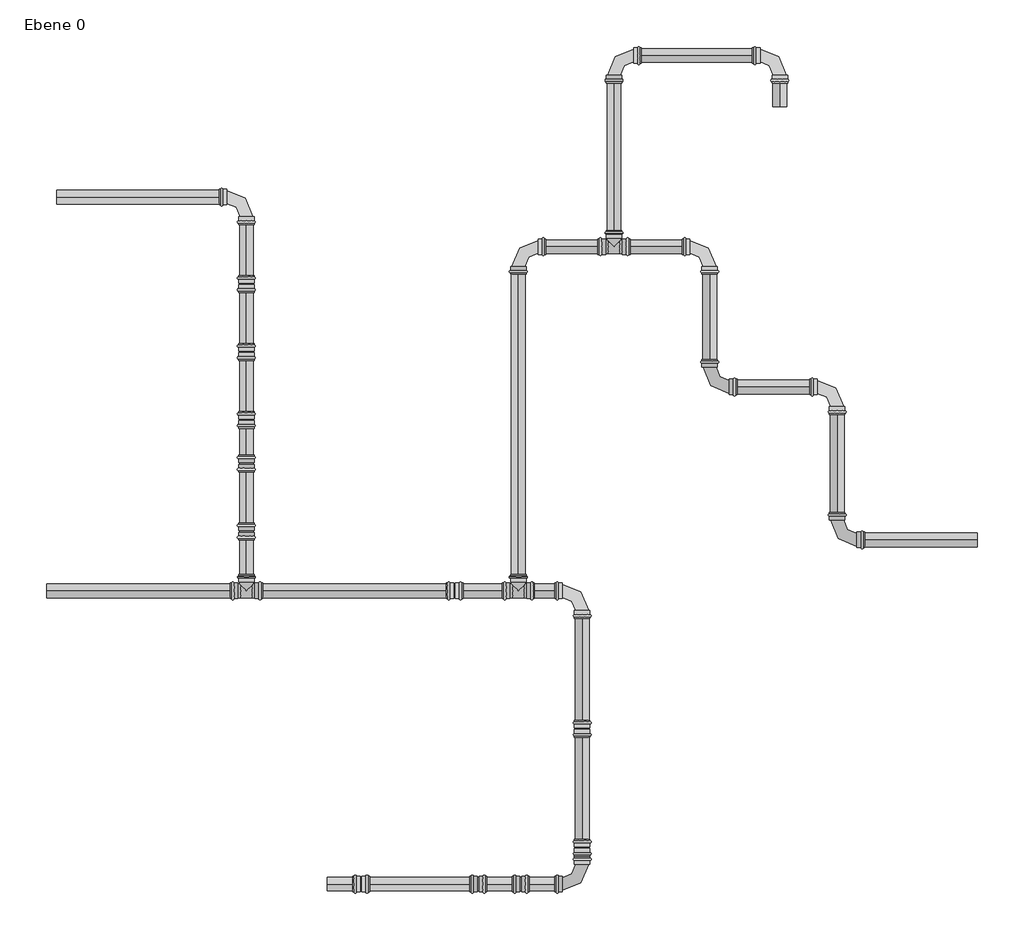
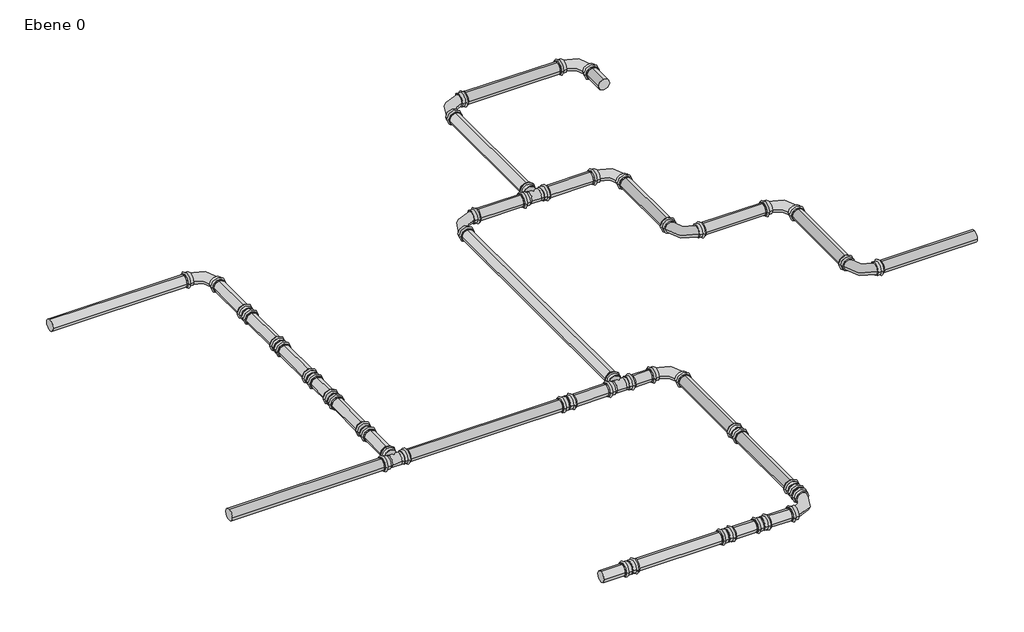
# One storey: 28 pipe segments, 24 pipe fittings.
"""IFC4 building model written with IfcOpenShell, lengths in millimetres."""

from ifc_helpers import new_model, si_unit, point, frame, frame_2d, origin, place, context, project, spatial, circle_curve, trimmed, segment, composite_curve, outline, extrude, transform, mapped, element, save
from components import bogen_edelstahl_press_standard_c5dac5ad, standard_b74197ae, verbindung_edelstahl_press_standard_6cba3e9c

model = new_model("IFC4")

# Units and contexts
model_context = context("Model", 3, world=origin())
ifc_project = project(units=[si_unit("LENGTHUNIT", "METRE", prefix="MILLI")], contexts=[model_context])

# Site, building, storey
site = spatial("IfcSite", under=ifc_project)
building = spatial("IfcBuilding", under=site)
storey = spatial("IfcBuildingStorey", under=building, Name="Ebene 0", Elevation=0.0)

# Pipe fittings
placement = place(None, origin())
bogen_edelstahl_press_standard_shape = bogen_edelstahl_press_standard_c5dac5ad(model_context)
element("IfcPipeFitting", 1, ObjectType="Bogen Edelstahl - Press : Standard", at=placement, inside=storey, context=model_context, shape_type="MappedRepresentation", body=[
    mapped(bogen_edelstahl_press_standard_shape, transform((30326.3442233, 19622.1918243, 150.0), x_axis=(0.0, 1.0, 0.0), y_axis=(-1.0, 0.0, 0.0), z_axis=(0.0, 0.0, 1.0))),
])
element("IfcPipeFitting", 2, ObjectType="Bogen Edelstahl - Press : Standard", at=placement, inside=storey, context=model_context, shape_type="MappedRepresentation", body=[
    mapped(bogen_edelstahl_press_standard_shape, transform((30326.3442233, 17322.1918243, 150.0), x_axis=(1.0, 0.0, 0.0), y_axis=(0.0, 1.0, 0.0), z_axis=(0.0, 0.0, 1.0))),
])
element("IfcPipeFitting", 3, ObjectType="Bogen Edelstahl - Press : Standard", at=placement, inside=storey, context=model_context, shape_type="MappedRepresentation", body=[
    mapped(bogen_edelstahl_press_standard_shape, transform((27693.7328943, 22711.9868563, 150.0), x_axis=(0.0, 1.0, 0.0), y_axis=(-1.0, 0.0, 0.0), z_axis=(0.0, 0.0, 1.0))),
])
element("IfcPipeFitting", 4, ObjectType="Bogen Edelstahl - Press : Standard", at=placement, inside=storey, context=model_context, shape_type="MappedRepresentation", body=[
    mapped(bogen_edelstahl_press_standard_shape, transform((31326.0942713, 22322.1918243, 150.0), x_axis=(0.0, 1.0, 0.0), y_axis=(-1.0, 0.0, 0.0), z_axis=(0.0, 0.0, 1.0))),
])
element("IfcPipeFitting", 5, ObjectType="Bogen Edelstahl - Press : Standard", at=placement, inside=storey, context=model_context, shape_type="MappedRepresentation", body=[
    mapped(bogen_edelstahl_press_standard_shape, transform((31326.0942713, 21222.1918243, 150.0), x_axis=(0.0, -1.0, 0.0), y_axis=(1.0, 0.0, 0.0), z_axis=(0.0, 0.0, 1.0))),
])
element("IfcPipeFitting", 6, ObjectType="Bogen Edelstahl - Press : Standard", at=placement, inside=storey, context=model_context, shape_type="MappedRepresentation", body=[
    mapped(bogen_edelstahl_press_standard_shape, transform((32326.0942713, 21222.1918243, 150.0), x_axis=(0.0, 1.0, 0.0), y_axis=(-1.0, 0.0, 0.0), z_axis=(0.0, 0.0, 1.0))),
])
element("IfcPipeFitting", 7, ObjectType="Bogen Edelstahl - Press : Standard", at=placement, inside=storey, context=model_context, shape_type="MappedRepresentation", body=[
    mapped(bogen_edelstahl_press_standard_shape, transform((32326.0942713, 20022.1918243, 150.0), x_axis=(0.0, -1.0, 0.0), y_axis=(1.0, 0.0, 0.0), z_axis=(0.0, 0.0, 1.0))),
])
element("IfcPipeFitting", 8, ObjectType="Bogen Edelstahl - Press : Standard", at=placement, inside=storey, context=model_context, shape_type="MappedRepresentation", body=[
    mapped(bogen_edelstahl_press_standard_shape, transform((29826.0942713, 22322.1918243, 150.0), x_axis=(-1.0, 0.0, 0.0), y_axis=(0.0, -1.0, 0.0), z_axis=(0.0, 0.0, 1.0))),
])
element("IfcPipeFitting", 9, ObjectType="Bogen Edelstahl - Press : Standard", at=placement, inside=storey, context=model_context, shape_type="MappedRepresentation", body=[
    mapped(bogen_edelstahl_press_standard_shape, transform((30576.0942713, 23822.1918243, 150.0), x_axis=(-1.0, 0.0, 0.0), y_axis=(0.0, -1.0, 0.0), z_axis=(0.0, 0.0, 1.0))),
])
element("IfcPipeFitting", 10, ObjectType="Bogen Edelstahl - Press : Standard", at=placement, inside=storey, context=model_context, shape_type="MappedRepresentation", body=[
    mapped(bogen_edelstahl_press_standard_shape, transform((31876.0942713, 23822.1918243, 150.0), x_axis=(0.0, 1.0, 0.0), y_axis=(-1.0, 0.0, 0.0), z_axis=(0.0, 0.0, 1.0))),
])
standard_shape = standard_b74197ae(model_context)
element("IfcPipeFitting", 11, ObjectType="T-Stück Edelstahl - Press : Standard", at=placement, inside=storey, context=model_context, shape_type="MappedRepresentation", body=[
    mapped(standard_shape, transform((29826.0942713, 19622.1918243, 150.0), x_axis=(-1.0, 0.0, 0.0), y_axis=(0.0, -1.0, 0.0), z_axis=(0.0, 0.0, 1.0))),
])
element("IfcPipeFitting", 12, ObjectType="T-Stück Edelstahl - Press : Standard", at=placement, inside=storey, context=model_context, shape_type="MappedRepresentation", body=[
    mapped(standard_shape, transform((30576.0942713, 22322.1918243, 150.0), x_axis=(-1.0, 0.0, 0.0), y_axis=(0.0, -1.0, 0.0), z_axis=(0.0, 0.0, 1.0))),
])
element("IfcPipeFitting", 13, ObjectType="T-Stück Edelstahl - Press : Standard", at=placement, inside=storey, context=model_context, shape_type="MappedRepresentation", body=[
    mapped(standard_shape, transform((27693.7328943, 19622.1918243, 150.0), x_axis=(-1.0, 0.0, 0.0), y_axis=(0.0, -1.0, 0.0), z_axis=(0.0, 0.0, 1.0))),
])
verbindung_edelstahl_press_standard_shape = verbindung_edelstahl_press_standard_6cba3e9c(model_context)
element("IfcPipeFitting", 14, ObjectType="Verbindung Edelstahl - Press : Standard", at=placement, inside=storey, context=model_context, shape_type="MappedRepresentation", body=[
    mapped(verbindung_edelstahl_press_standard_shape, transform((29325.8443193, 19622.1918243, 150.0), x_axis=(1.0, 0.0, 0.0), y_axis=(0.0, 1.0, 0.0), z_axis=(0.0, 0.0, 1.0))),
])
element("IfcPipeFitting", 15, ObjectType="Verbindung Edelstahl - Press : Standard", at=placement, inside=storey, context=model_context, shape_type="MappedRepresentation", body=[
    mapped(verbindung_edelstahl_press_standard_shape, transform((30326.3442233, 18540.6917987, 150.0), x_axis=(0.0, -1.0, 0.0), y_axis=(1.0, 0.0, 0.0), z_axis=(0.0, 0.0, 1.0))),
])
element("IfcPipeFitting", 16, ObjectType="Verbindung Edelstahl - Press : Standard", at=placement, inside=storey, context=model_context, shape_type="MappedRepresentation", body=[
    mapped(verbindung_edelstahl_press_standard_shape, transform((30326.3442233, 17607.6917731, 150.0), x_axis=(0.0, -1.0, 0.0), y_axis=(1.0, 0.0, 0.0), z_axis=(0.0, 0.0, 1.0))),
])
element("IfcPipeFitting", 17, ObjectType="Verbindung Edelstahl - Press : Standard", at=placement, inside=storey, context=model_context, shape_type="MappedRepresentation", body=[
    mapped(verbindung_edelstahl_press_standard_shape, transform((29844.8442169, 17322.1918243, 150.0), x_axis=(-1.0, 0.0, 0.0), y_axis=(0.0, -1.0, 0.0), z_axis=(0.0, 0.0, 1.0))),
])
element("IfcPipeFitting", 18, ObjectType="Verbindung Edelstahl - Press : Standard", at=placement, inside=storey, context=model_context, shape_type="MappedRepresentation", body=[
    mapped(verbindung_edelstahl_press_standard_shape, transform((29511.8442105, 17322.1918243, 150.0), x_axis=(-1.0, 0.0, 0.0), y_axis=(0.0, -1.0, 0.0), z_axis=(0.0, 0.0, 1.0))),
])
element("IfcPipeFitting", 19, ObjectType="Verbindung Edelstahl - Press : Standard", at=placement, inside=storey, context=model_context, shape_type="MappedRepresentation", body=[
    mapped(verbindung_edelstahl_press_standard_shape, transform((28592.8442297, 17322.1918243, 150.0), x_axis=(1.0, 0.0, 0.0), y_axis=(0.0, 1.0, 0.0), z_axis=(0.0, 0.0, 1.0))),
])
element("IfcPipeFitting", 20, ObjectType="Verbindung Edelstahl - Press : Standard", at=placement, inside=storey, context=model_context, shape_type="MappedRepresentation", body=[
    mapped(verbindung_edelstahl_press_standard_shape, transform((27693.7328943, 20088.6918371, 150.0), x_axis=(0.0, 1.0, 0.0), y_axis=(-1.0, 0.0, 0.0), z_axis=(0.0, 0.0, 1.0))),
])
element("IfcPipeFitting", 21, ObjectType="Verbindung Edelstahl - Press : Standard", at=placement, inside=storey, context=model_context, shape_type="MappedRepresentation", body=[
    mapped(verbindung_edelstahl_press_standard_shape, transform((27693.7328943, 20621.6918499, 150.0), x_axis=(0.0, 1.0, 0.0), y_axis=(-1.0, 0.0, 0.0), z_axis=(0.0, 0.0, 1.0))),
])
element("IfcPipeFitting", 22, ObjectType="Verbindung Edelstahl - Press : Standard", at=placement, inside=storey, context=model_context, shape_type="MappedRepresentation", body=[
    mapped(verbindung_edelstahl_press_standard_shape, transform((27693.7328943, 22030.4868435, 150.0), x_axis=(0.0, -1.0, 0.0), y_axis=(1.0, 0.0, 0.0), z_axis=(0.0, 0.0, 1.0))),
])
element("IfcPipeFitting", 23, ObjectType="Verbindung Edelstahl - Press : Standard", at=placement, inside=storey, context=model_context, shape_type="MappedRepresentation", body=[
    mapped(verbindung_edelstahl_press_standard_shape, transform((27693.7328943, 21497.4868307, 150.0), x_axis=(0.0, -1.0, 0.0), y_axis=(1.0, 0.0, 0.0), z_axis=(0.0, 0.0, 1.0))),
])
element("IfcPipeFitting", 24, ObjectType="Verbindung Edelstahl - Press : Standard", at=placement, inside=storey, context=model_context, shape_type="MappedRepresentation", body=[
    mapped(verbindung_edelstahl_press_standard_shape, transform((27693.7328943, 20964.4868179, 150.0), x_axis=(0.0, -1.0, 0.0), y_axis=(1.0, 0.0, 0.0), z_axis=(0.0, 0.0, 1.0))),
])

# Pipe segments
element("IfcPipeSegment", 25, ObjectType="Edelstahl - Pressfitting", at=placement, inside=storey, context=model_context, shape_type="SweptSolid", body=[
    extrude(outline(composite_curve([segment(trimmed(circle_curve(frame_2d((19622.1918243, 150.0)), 54.0), [point((19568.1918243, 150.0))], [point((19622.1918243, 204.0))], False, "CARTESIAN"), True, "CONTINUOUS"), segment(trimmed(circle_curve(frame_2d((19622.1918243, 150.0)), 54.0), [point((19622.1918243, 204.0))], [point((19676.1918243, 150.0))], False, "CARTESIAN"), True, "CONTINUOUS"), segment(trimmed(circle_curve(frame_2d((19622.1918243, 150.0)), 54.0), [point((19676.1918243, 150.0))], [point((19622.1918243, 96.0))], False, "CARTESIAN"), True, "CONTINUOUS"), segment(trimmed(circle_curve(frame_2d((19622.1918243, 150.0)), 54.0), [point((19622.1918243, 96.0))], [point((19568.1918243, 150.0))], False, "CARTESIAN"), True, "CONTINUOUS")], self_intersect=False)), frame((29952.5942713, 0.0, 0.0), z_axis=(1.0, 0.0, 0.0), x_axis=(0.0, 1.0, 0.0)), (0.0, 0.0, 1.0), 158.749952),
])
element("IfcPipeSegment", 26, ObjectType="Edelstahl - Pressfitting", at=placement, inside=storey, context=model_context, shape_type="SweptSolid", body=[
    extrude(outline(composite_curve([segment(trimmed(circle_curve(frame_2d((0.0, -54.0)), 54.0), [point((0.0, 0.0))], [point((54.0, -54.0))], False, "CARTESIAN"), True, "CONTINUOUS"), segment(trimmed(circle_curve(frame_2d((0.0, -54.0)), 54.0), [point((54.0, -54.0))], [point((0.0, -108.0))], False, "CARTESIAN"), True, "CONTINUOUS"), segment(trimmed(circle_curve(frame_2d((0.0, -54.0)), 54.0), [point((0.0, -108.0))], [point((-54.0, -54.0))], False, "CARTESIAN"), True, "CONTINUOUS"), segment(trimmed(circle_curve(frame_2d((0.0, -54.0)), 54.0), [point((-54.0, -54.0))], [point((0.0, 0.0))], False, "CARTESIAN"), True, "CONTINUOUS")], self_intersect=False)), frame((30272.3442233, 17537.1918243, 150.0), z_axis=(5.4143356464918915e-12, 1.0, 0.0), x_axis=(0.0, 0.0, -1.0)), (0.0, 0.0, 1.0), 3.9999488),
])
element("IfcPipeSegment", 27, ObjectType="Edelstahl - Pressfitting", at=placement, inside=storey, context=model_context, shape_type="SweptSolid", body=[
    extrude(outline(composite_curve([segment(trimmed(circle_curve(frame_2d((17322.1918243, 150.0)), 54.0), [point((17376.1918243, 150.0))], [point((17322.1918243, 96.0))], False, "CARTESIAN"), True, "CONTINUOUS"), segment(trimmed(circle_curve(frame_2d((17322.1918243, 150.0)), 54.0), [point((17322.1918243, 96.0))], [point((17268.1918243, 150.0))], False, "CARTESIAN"), True, "CONTINUOUS"), segment(trimmed(circle_curve(frame_2d((17322.1918243, 150.0)), 54.0), [point((17268.1918243, 150.0))], [point((17322.1918243, 204.0))], False, "CARTESIAN"), True, "CONTINUOUS"), segment(trimmed(circle_curve(frame_2d((17322.1918243, 150.0)), 54.0), [point((17322.1918243, 204.0))], [point((17376.1918243, 150.0))], False, "CARTESIAN"), True, "CONTINUOUS")], self_intersect=False)), frame((28326.3442233, 0.0, 0.0), z_axis=(1.0, 0.0, 0.0), x_axis=(0.0, 1.0, 0.0)), (0.0, 0.0, 1.0), 200.0000064),
])
element("IfcPipeSegment", 28, ObjectType="Edelstahl - Pressfitting", at=placement, inside=storey, context=model_context, shape_type="SweptSolid", body=[
    extrude(outline(composite_curve([segment(trimmed(circle_curve(frame_2d((19622.1918243, 150.0)), 54.0), [point((19568.1918243, 150.0))], [point((19622.1918243, 204.0))], False, "CARTESIAN"), True, "CONTINUOUS"), segment(trimmed(circle_curve(frame_2d((19622.1918243, 150.0)), 54.0), [point((19622.1918243, 204.0))], [point((19676.1918243, 150.0))], False, "CARTESIAN"), True, "CONTINUOUS"), segment(trimmed(circle_curve(frame_2d((19622.1918243, 150.0)), 54.0), [point((19676.1918243, 150.0))], [point((19622.1918243, 96.0))], False, "CARTESIAN"), True, "CONTINUOUS"), segment(trimmed(circle_curve(frame_2d((19622.1918243, 150.0)), 54.0), [point((19622.1918243, 96.0))], [point((19568.1918243, 150.0))], False, "CARTESIAN"), True, "CONTINUOUS")], self_intersect=False)), frame((27820.2328943, 0.0, 0.0), z_axis=(1.0, 0.0, 0.0), x_axis=(0.0, 1.0, 0.0)), (0.0, 0.0, 1.0), 1439.1114251),
])
element("IfcPipeSegment", 29, ObjectType="Edelstahl - Pressfitting", at=placement, inside=storey, context=model_context, shape_type="SweptSolid", body=[
    extrude(outline(composite_curve([segment(trimmed(circle_curve(frame_2d((150.0, 30326.3442233)), 54.0), [point((150.0, 30272.3442233))], [point((96.0, 30326.3442233))], False, "CARTESIAN"), True, "CONTINUOUS"), segment(trimmed(circle_curve(frame_2d((150.0, 30326.3442233)), 54.0), [point((96.0, 30326.3442233))], [point((150.0, 30380.3442233))], False, "CARTESIAN"), True, "CONTINUOUS"), segment(trimmed(circle_curve(frame_2d((150.0, 30326.3442233)), 54.0), [point((150.0, 30380.3442233))], [point((204.0, 30326.3442233))], False, "CARTESIAN"), True, "CONTINUOUS"), segment(trimmed(circle_curve(frame_2d((150.0, 30326.3442233)), 54.0), [point((204.0, 30326.3442233))], [point((150.0, 30272.3442233))], False, "CARTESIAN"), True, "CONTINUOUS")], self_intersect=False)), frame((0.0, 18607.1917987, 0.0), z_axis=(0.0, 1.0, 0.0), x_axis=(0.0, 0.0, 1.0)), (0.0, 0.0, 1.0), 800.0000256),
])
element("IfcPipeSegment", 30, ObjectType="Edelstahl - Pressfitting", at=placement, inside=storey, context=model_context, shape_type="SweptSolid", body=[
    extrude(outline(composite_curve([segment(trimmed(circle_curve(frame_2d((150.0, 30326.3442233)), 54.0), [point((150.0, 30272.3442233))], [point((96.0, 30326.3442233))], False, "CARTESIAN"), True, "CONTINUOUS"), segment(trimmed(circle_curve(frame_2d((150.0, 30326.3442233)), 54.0), [point((96.0, 30326.3442233))], [point((150.0, 30380.3442233))], False, "CARTESIAN"), True, "CONTINUOUS"), segment(trimmed(circle_curve(frame_2d((150.0, 30326.3442233)), 54.0), [point((150.0, 30380.3442233))], [point((204.0, 30326.3442233))], False, "CARTESIAN"), True, "CONTINUOUS"), segment(trimmed(circle_curve(frame_2d((150.0, 30326.3442233)), 54.0), [point((204.0, 30326.3442233))], [point((150.0, 30272.3442233))], False, "CARTESIAN"), True, "CONTINUOUS")], self_intersect=False)), frame((0.0, 17674.1917731, 0.0), z_axis=(0.0, 1.0, 0.0), x_axis=(0.0, 0.0, 1.0)), (0.0, 0.0, 1.0), 800.0000256),
])
element("IfcPipeSegment", 31, ObjectType="Edelstahl - Pressfitting", at=placement, inside=storey, context=model_context, shape_type="SweptSolid", body=[
    extrude(outline(composite_curve([segment(trimmed(circle_curve(frame_2d((17322.1918243, 150.0)), 54.0), [point((17376.1918243, 150.0))], [point((17322.1918243, 96.0))], False, "CARTESIAN"), True, "CONTINUOUS"), segment(trimmed(circle_curve(frame_2d((17322.1918243, 150.0)), 54.0), [point((17322.1918243, 96.0))], [point((17268.1918243, 150.0))], False, "CARTESIAN"), True, "CONTINUOUS"), segment(trimmed(circle_curve(frame_2d((17322.1918243, 150.0)), 54.0), [point((17268.1918243, 150.0))], [point((17322.1918243, 204.0))], False, "CARTESIAN"), True, "CONTINUOUS"), segment(trimmed(circle_curve(frame_2d((17322.1918243, 150.0)), 54.0), [point((17322.1918243, 204.0))], [point((17376.1918243, 150.0))], False, "CARTESIAN"), True, "CONTINUOUS")], self_intersect=False)), frame((29911.3442169, 0.0, 0.0), z_axis=(1.0, 0.0, 0.0), x_axis=(0.0, 1.0, 0.0)), (0.0, 0.0, 1.0), 200.0000064),
])
element("IfcPipeSegment", 32, ObjectType="Edelstahl - Pressfitting", at=placement, inside=storey, context=model_context, shape_type="SweptSolid", body=[
    extrude(outline(composite_curve([segment(trimmed(circle_curve(frame_2d((17322.1918243, 150.0)), 54.0), [point((17376.1918243, 150.0))], [point((17322.1918243, 96.0))], False, "CARTESIAN"), True, "CONTINUOUS"), segment(trimmed(circle_curve(frame_2d((17322.1918243, 150.0)), 54.0), [point((17322.1918243, 96.0))], [point((17268.1918243, 150.0))], False, "CARTESIAN"), True, "CONTINUOUS"), segment(trimmed(circle_curve(frame_2d((17322.1918243, 150.0)), 54.0), [point((17268.1918243, 150.0))], [point((17322.1918243, 204.0))], False, "CARTESIAN"), True, "CONTINUOUS"), segment(trimmed(circle_curve(frame_2d((17322.1918243, 150.0)), 54.0), [point((17322.1918243, 204.0))], [point((17376.1918243, 150.0))], False, "CARTESIAN"), True, "CONTINUOUS")], self_intersect=False)), frame((29578.3442105, 0.0, 0.0), z_axis=(1.0, 0.0, 0.0), x_axis=(0.0, 1.0, 0.0)), (0.0, 0.0, 1.0), 200.0000064),
])
element("IfcPipeSegment", 33, ObjectType="Edelstahl - Pressfitting", at=placement, inside=storey, context=model_context, shape_type="SweptSolid", body=[
    extrude(outline(composite_curve([segment(trimmed(circle_curve(frame_2d((17322.1918243, 150.0)), 54.0), [point((17376.1918243, 150.0))], [point((17322.1918243, 96.0))], False, "CARTESIAN"), True, "CONTINUOUS"), segment(trimmed(circle_curve(frame_2d((17322.1918243, 150.0)), 54.0), [point((17322.1918243, 96.0))], [point((17268.1918243, 150.0))], False, "CARTESIAN"), True, "CONTINUOUS"), segment(trimmed(circle_curve(frame_2d((17322.1918243, 150.0)), 54.0), [point((17268.1918243, 150.0))], [point((17322.1918243, 204.0))], False, "CARTESIAN"), True, "CONTINUOUS"), segment(trimmed(circle_curve(frame_2d((17322.1918243, 150.0)), 54.0), [point((17322.1918243, 204.0))], [point((17376.1918243, 150.0))], False, "CARTESIAN"), True, "CONTINUOUS")], self_intersect=False)), frame((28659.3442297, 0.0, 0.0), z_axis=(1.0, 0.0, 0.0), x_axis=(0.0, 1.0, 0.0)), (0.0, 0.0, 1.0), 785.9999808),
])
element("IfcPipeSegment", 34, ObjectType="Edelstahl - Pressfitting", at=placement, inside=storey, context=model_context, shape_type="SweptSolid", body=[
    extrude(outline(composite_curve([segment(trimmed(circle_curve(frame_2d((150.0, 27693.7328943)), 54.0), [point((150.0, 27747.7328943))], [point((204.0, 27693.7328943))], False, "CARTESIAN"), True, "CONTINUOUS"), segment(trimmed(circle_curve(frame_2d((150.0, 27693.7328943)), 54.0), [point((204.0, 27693.7328943))], [point((150.0, 27639.7328943))], False, "CARTESIAN"), True, "CONTINUOUS"), segment(trimmed(circle_curve(frame_2d((150.0, 27693.7328943)), 54.0), [point((150.0, 27639.7328943))], [point((96.0, 27693.7328943))], False, "CARTESIAN"), True, "CONTINUOUS"), segment(trimmed(circle_curve(frame_2d((150.0, 27693.7328943)), 54.0), [point((96.0, 27693.7328943))], [point((150.0, 27747.7328943))], False, "CARTESIAN"), True, "CONTINUOUS")], self_intersect=False)), frame((0.0, 22096.9868435, 0.0), z_axis=(0.0, 1.0, 0.0), x_axis=(0.0, 0.0, 1.0)), (0.0, 0.0, 1.0), 400.0000128),
])
element("IfcPipeSegment", 35, ObjectType="Edelstahl - Pressfitting", at=placement, inside=storey, context=model_context, shape_type="SweptSolid", body=[
    extrude(outline(composite_curve([segment(trimmed(circle_curve(frame_2d((22711.9868563, 150.0)), 54.0), [point((22765.9868563, 150.0))], [point((22711.9868563, 96.0))], False, "CARTESIAN"), True, "CONTINUOUS"), segment(trimmed(circle_curve(frame_2d((22711.9868563, 150.0)), 54.0), [point((22711.9868563, 96.0))], [point((22657.9868563, 150.0))], False, "CARTESIAN"), True, "CONTINUOUS"), segment(trimmed(circle_curve(frame_2d((22711.9868563, 150.0)), 54.0), [point((22657.9868563, 150.0))], [point((22711.9868563, 204.0))], False, "CARTESIAN"), True, "CONTINUOUS"), segment(trimmed(circle_curve(frame_2d((22711.9868563, 150.0)), 54.0), [point((22711.9868563, 204.0))], [point((22765.9868563, 150.0))], False, "CARTESIAN"), True, "CONTINUOUS")], self_intersect=False)), frame((26208.1097304, 0.0, 0.0), z_axis=(1.0, 0.0, 0.0), x_axis=(0.0, 1.0, 0.0)), (0.0, 0.0, 1.0), 1270.6231639),
])
element("IfcPipeSegment", 36, ObjectType="Edelstahl - Pressfitting", at=placement, inside=storey, context=model_context, shape_type="SweptSolid", body=[
    extrude(outline(composite_curve([segment(trimmed(circle_curve(frame_2d((150.0, 27693.7328943)), 54.0), [point((150.0, 27747.7328943))], [point((204.0, 27693.7328943))], False, "CARTESIAN"), True, "CONTINUOUS"), segment(trimmed(circle_curve(frame_2d((150.0, 27693.7328943)), 54.0), [point((204.0, 27693.7328943))], [point((150.0, 27639.7328943))], False, "CARTESIAN"), True, "CONTINUOUS"), segment(trimmed(circle_curve(frame_2d((150.0, 27693.7328943)), 54.0), [point((150.0, 27639.7328943))], [point((96.0, 27693.7328943))], False, "CARTESIAN"), True, "CONTINUOUS"), segment(trimmed(circle_curve(frame_2d((150.0, 27693.7328943)), 54.0), [point((96.0, 27693.7328943))], [point((150.0, 27747.7328943))], False, "CARTESIAN"), True, "CONTINUOUS")], self_intersect=False)), frame((0.0, 19750.6918243, 0.0), z_axis=(0.0, 1.0, 0.0), x_axis=(0.0, 0.0, 1.0)), (0.0, 0.0, 1.0), 271.5000128),
])
element("IfcPipeSegment", 37, ObjectType="Edelstahl - Pressfitting", at=placement, inside=storey, context=model_context, shape_type="SweptSolid", body=[
    extrude(outline(composite_curve([segment(trimmed(circle_curve(frame_2d((150.0, 27693.7328943)), 54.0), [point((150.0, 27747.7328943))], [point((204.0, 27693.7328943))], False, "CARTESIAN"), True, "CONTINUOUS"), segment(trimmed(circle_curve(frame_2d((150.0, 27693.7328943)), 54.0), [point((204.0, 27693.7328943))], [point((150.0, 27639.7328943))], False, "CARTESIAN"), True, "CONTINUOUS"), segment(trimmed(circle_curve(frame_2d((150.0, 27693.7328943)), 54.0), [point((150.0, 27639.7328943))], [point((96.0, 27693.7328943))], False, "CARTESIAN"), True, "CONTINUOUS"), segment(trimmed(circle_curve(frame_2d((150.0, 27693.7328943)), 54.0), [point((96.0, 27693.7328943))], [point((150.0, 27747.7328943))], False, "CARTESIAN"), True, "CONTINUOUS")], self_intersect=False)), frame((0.0, 20155.1918371, 0.0), z_axis=(0.0, 1.0, 0.0), x_axis=(0.0, 0.0, 1.0)), (0.0, 0.0, 1.0), 400.0000128),
])
element("IfcPipeSegment", 38, ObjectType="Edelstahl - Pressfitting", at=placement, inside=storey, context=model_context, shape_type="SweptSolid", body=[
    extrude(outline(composite_curve([segment(trimmed(circle_curve(frame_2d((150.0, 27693.7328943)), 54.0), [point((150.0, 27747.7328943))], [point((204.0, 27693.7328943))], False, "CARTESIAN"), True, "CONTINUOUS"), segment(trimmed(circle_curve(frame_2d((150.0, 27693.7328943)), 54.0), [point((204.0, 27693.7328943))], [point((150.0, 27639.7328943))], False, "CARTESIAN"), True, "CONTINUOUS"), segment(trimmed(circle_curve(frame_2d((150.0, 27693.7328943)), 54.0), [point((150.0, 27639.7328943))], [point((96.0, 27693.7328943))], False, "CARTESIAN"), True, "CONTINUOUS"), segment(trimmed(circle_curve(frame_2d((150.0, 27693.7328943)), 54.0), [point((96.0, 27693.7328943))], [point((150.0, 27747.7328943))], False, "CARTESIAN"), True, "CONTINUOUS")], self_intersect=False)), frame((0.0, 21563.9868307, 0.0), z_axis=(0.0, 1.0, 0.0), x_axis=(0.0, 0.0, 1.0)), (0.0, 0.0, 1.0), 400.0000128),
])
element("IfcPipeSegment", 39, ObjectType="Edelstahl - Pressfitting", at=placement, inside=storey, context=model_context, shape_type="SweptSolid", body=[
    extrude(outline(composite_curve([segment(trimmed(circle_curve(frame_2d((150.0, 27693.7328943)), 54.0), [point((150.0, 27747.7328943))], [point((204.0, 27693.7328943))], False, "CARTESIAN"), True, "CONTINUOUS"), segment(trimmed(circle_curve(frame_2d((150.0, 27693.7328943)), 54.0), [point((204.0, 27693.7328943))], [point((150.0, 27639.7328943))], False, "CARTESIAN"), True, "CONTINUOUS"), segment(trimmed(circle_curve(frame_2d((150.0, 27693.7328943)), 54.0), [point((150.0, 27639.7328943))], [point((96.0, 27693.7328943))], False, "CARTESIAN"), True, "CONTINUOUS"), segment(trimmed(circle_curve(frame_2d((150.0, 27693.7328943)), 54.0), [point((96.0, 27693.7328943))], [point((150.0, 27747.7328943))], False, "CARTESIAN"), True, "CONTINUOUS")], self_intersect=False)), frame((0.0, 21030.9868179, 0.0), z_axis=(0.0, 1.0, 0.0), x_axis=(0.0, 0.0, 1.0)), (0.0, 0.0, 1.0), 400.0000128),
])
element("IfcPipeSegment", 40, ObjectType="Edelstahl - Pressfitting", at=placement, inside=storey, context=model_context, shape_type="SweptSolid", body=[
    extrude(outline(composite_curve([segment(trimmed(circle_curve(frame_2d((150.0, 27693.7328943)), 54.0), [point((150.0, 27747.7328943))], [point((204.0, 27693.7328943))], False, "CARTESIAN"), True, "CONTINUOUS"), segment(trimmed(circle_curve(frame_2d((150.0, 27693.7328943)), 54.0), [point((204.0, 27693.7328943))], [point((150.0, 27639.7328943))], False, "CARTESIAN"), True, "CONTINUOUS"), segment(trimmed(circle_curve(frame_2d((150.0, 27693.7328943)), 54.0), [point((150.0, 27639.7328943))], [point((96.0, 27693.7328943))], False, "CARTESIAN"), True, "CONTINUOUS"), segment(trimmed(circle_curve(frame_2d((150.0, 27693.7328943)), 54.0), [point((96.0, 27693.7328943))], [point((150.0, 27747.7328943))], False, "CARTESIAN"), True, "CONTINUOUS")], self_intersect=False)), frame((0.0, 20688.1918499, 0.0), z_axis=(0.0, 1.0, 0.0), x_axis=(0.0, 0.0, 1.0)), (0.0, 0.0, 1.0), 209.794968),
])
element("IfcPipeSegment", 41, ObjectType="Edelstahl - Pressfitting", at=placement, inside=storey, context=model_context, shape_type="SweptSolid", body=[
    extrude(outline(composite_curve([segment(trimmed(circle_curve(frame_2d((150.0, 29826.0942713)), 54.0), [point((150.0, 29880.0942713))], [point((204.0, 29826.0942713))], False, "CARTESIAN"), True, "CONTINUOUS"), segment(trimmed(circle_curve(frame_2d((150.0, 29826.0942713)), 54.0), [point((204.0, 29826.0942713))], [point((150.0, 29772.0942713))], False, "CARTESIAN"), True, "CONTINUOUS"), segment(trimmed(circle_curve(frame_2d((150.0, 29826.0942713)), 54.0), [point((150.0, 29772.0942713))], [point((96.0, 29826.0942713))], False, "CARTESIAN"), True, "CONTINUOUS"), segment(trimmed(circle_curve(frame_2d((150.0, 29826.0942713)), 54.0), [point((96.0, 29826.0942713))], [point((150.0, 29880.0942713))], False, "CARTESIAN"), True, "CONTINUOUS")], self_intersect=False)), frame((0.0, 19750.6918243, 0.0), z_axis=(0.0, 1.0, 0.0), x_axis=(0.0, 0.0, 1.0)), (0.0, 0.0, 1.0), 2356.5),
])
element("IfcPipeSegment", 42, ObjectType="Edelstahl - Pressfitting", at=placement, inside=storey, context=model_context, shape_type="SweptSolid", body=[
    extrude(outline(composite_curve([segment(trimmed(circle_curve(frame_2d((22322.1918243, 150.0)), 54.0), [point((22268.1918243, 150.0))], [point((22322.1918243, 204.0))], False, "CARTESIAN"), True, "CONTINUOUS"), segment(trimmed(circle_curve(frame_2d((22322.1918243, 150.0)), 54.0), [point((22322.1918243, 204.0))], [point((22376.1918243, 150.0))], False, "CARTESIAN"), True, "CONTINUOUS"), segment(trimmed(circle_curve(frame_2d((22322.1918243, 150.0)), 54.0), [point((22376.1918243, 150.0))], [point((22322.1918243, 96.0))], False, "CARTESIAN"), True, "CONTINUOUS"), segment(trimmed(circle_curve(frame_2d((22322.1918243, 150.0)), 54.0), [point((22322.1918243, 96.0))], [point((22268.1918243, 150.0))], False, "CARTESIAN"), True, "CONTINUOUS")], self_intersect=False)), frame((30702.5942713, 0.0, 0.0), z_axis=(1.0, 0.0, 0.0), x_axis=(0.0, 1.0, 0.0)), (0.0, 0.0, 1.0), 408.5),
])
element("IfcPipeSegment", 43, ObjectType="Edelstahl - Pressfitting", at=placement, inside=storey, context=model_context, shape_type="SweptSolid", body=[
    extrude(outline(composite_curve([segment(trimmed(circle_curve(frame_2d((150.0, 31326.0942713)), 54.0), [point((150.0, 31272.0942713))], [point((96.0, 31326.0942713))], False, "CARTESIAN"), True, "CONTINUOUS"), segment(trimmed(circle_curve(frame_2d((150.0, 31326.0942713)), 54.0), [point((96.0, 31326.0942713))], [point((150.0, 31380.0942713))], False, "CARTESIAN"), True, "CONTINUOUS"), segment(trimmed(circle_curve(frame_2d((150.0, 31326.0942713)), 54.0), [point((150.0, 31380.0942713))], [point((204.0, 31326.0942713))], False, "CARTESIAN"), True, "CONTINUOUS"), segment(trimmed(circle_curve(frame_2d((150.0, 31326.0942713)), 54.0), [point((204.0, 31326.0942713))], [point((150.0, 31272.0942713))], False, "CARTESIAN"), True, "CONTINUOUS")], self_intersect=False)), frame((0.0, 21437.1918243, 0.0), z_axis=(0.0, 1.0, 0.0), x_axis=(0.0, 0.0, 1.0)), (0.0, 0.0, 1.0), 670.0),
])
element("IfcPipeSegment", 44, ObjectType="Edelstahl - Pressfitting", at=placement, inside=storey, context=model_context, shape_type="SweptSolid", body=[
    extrude(outline(composite_curve([segment(trimmed(circle_curve(frame_2d((21222.1918243, 150.0)), 54.0), [point((21168.1918243, 150.0))], [point((21222.1918243, 204.0))], False, "CARTESIAN"), True, "CONTINUOUS"), segment(trimmed(circle_curve(frame_2d((21222.1918243, 150.0)), 54.0), [point((21222.1918243, 204.0))], [point((21276.1918243, 150.0))], False, "CARTESIAN"), True, "CONTINUOUS"), segment(trimmed(circle_curve(frame_2d((21222.1918243, 150.0)), 54.0), [point((21276.1918243, 150.0))], [point((21222.1918243, 96.0))], False, "CARTESIAN"), True, "CONTINUOUS"), segment(trimmed(circle_curve(frame_2d((21222.1918243, 150.0)), 54.0), [point((21222.1918243, 96.0))], [point((21168.1918243, 150.0))], False, "CARTESIAN"), True, "CONTINUOUS")], self_intersect=False)), frame((31541.0942713, 0.0, 0.0), z_axis=(1.0, 0.0, 0.0), x_axis=(0.0, 1.0, 0.0)), (0.0, 0.0, 1.0), 570.0),
])
element("IfcPipeSegment", 45, ObjectType="Edelstahl - Pressfitting", at=placement, inside=storey, context=model_context, shape_type="SweptSolid", body=[
    extrude(outline(composite_curve([segment(trimmed(circle_curve(frame_2d((150.0, 32326.0942713)), 54.0), [point((150.0, 32272.0942713))], [point((96.0, 32326.0942713))], False, "CARTESIAN"), True, "CONTINUOUS"), segment(trimmed(circle_curve(frame_2d((150.0, 32326.0942713)), 54.0), [point((96.0, 32326.0942713))], [point((150.0, 32380.0942713))], False, "CARTESIAN"), True, "CONTINUOUS"), segment(trimmed(circle_curve(frame_2d((150.0, 32326.0942713)), 54.0), [point((150.0, 32380.0942713))], [point((204.0, 32326.0942713))], False, "CARTESIAN"), True, "CONTINUOUS"), segment(trimmed(circle_curve(frame_2d((150.0, 32326.0942713)), 54.0), [point((204.0, 32326.0942713))], [point((150.0, 32272.0942713))], False, "CARTESIAN"), True, "CONTINUOUS")], self_intersect=False)), frame((0.0, 20237.1918243, 0.0), z_axis=(0.0, 1.0, 0.0), x_axis=(0.0, 0.0, 1.0)), (0.0, 0.0, 1.0), 770.0),
])
element("IfcPipeSegment", 46, ObjectType="Edelstahl - Pressfitting", at=placement, inside=storey, context=model_context, shape_type="SweptSolid", body=[
    extrude(outline(composite_curve([segment(trimmed(circle_curve(frame_2d((20022.1918243, 150.0)), 54.0), [point((19968.1918243, 150.0))], [point((20022.1918243, 204.0))], False, "CARTESIAN"), True, "CONTINUOUS"), segment(trimmed(circle_curve(frame_2d((20022.1918243, 150.0)), 54.0), [point((20022.1918243, 204.0))], [point((20076.1918243, 150.0))], False, "CARTESIAN"), True, "CONTINUOUS"), segment(trimmed(circle_curve(frame_2d((20022.1918243, 150.0)), 54.0), [point((20076.1918243, 150.0))], [point((20022.1918243, 96.0))], False, "CARTESIAN"), True, "CONTINUOUS"), segment(trimmed(circle_curve(frame_2d((20022.1918243, 150.0)), 54.0), [point((20022.1918243, 96.0))], [point((19968.1918243, 150.0))], False, "CARTESIAN"), True, "CONTINUOUS")], self_intersect=False)), frame((32541.0942713, 0.0, 0.0), z_axis=(1.0, 0.0, 0.0), x_axis=(0.0, 1.0, 0.0)), (0.0, 0.0, 1.0), 885.0),
])
element("IfcPipeSegment", 47, ObjectType="Edelstahl - Pressfitting", at=placement, inside=storey, context=model_context, shape_type="SweptSolid", body=[
    extrude(outline(composite_curve([segment(trimmed(circle_curve(frame_2d((19622.1918243, 150.0)), 54.0), [point((19568.1918243, 150.0))], [point((19622.1918243, 204.0))], False, "CARTESIAN"), True, "CONTINUOUS"), segment(trimmed(circle_curve(frame_2d((19622.1918243, 150.0)), 54.0), [point((19622.1918243, 204.0))], [point((19676.1918243, 150.0))], False, "CARTESIAN"), True, "CONTINUOUS"), segment(trimmed(circle_curve(frame_2d((19622.1918243, 150.0)), 54.0), [point((19676.1918243, 150.0))], [point((19622.1918243, 96.0))], False, "CARTESIAN"), True, "CONTINUOUS"), segment(trimmed(circle_curve(frame_2d((19622.1918243, 150.0)), 54.0), [point((19622.1918243, 96.0))], [point((19568.1918243, 150.0))], False, "CARTESIAN"), True, "CONTINUOUS")], self_intersect=False)), frame((29392.3443193, 0.0, 0.0), z_axis=(1.0, 0.0, 0.0), x_axis=(0.0, 1.0, 0.0)), (0.0, 0.0, 1.0), 307.249952),
])
element("IfcPipeSegment", 48, ObjectType="Edelstahl - Pressfitting", at=placement, inside=storey, context=model_context, shape_type="SweptSolid", body=[
    extrude(outline(composite_curve([segment(trimmed(circle_curve(frame_2d((150.0, 30576.0942713)), 54.0), [point((150.0, 30630.0942713))], [point((204.0, 30576.0942713))], False, "CARTESIAN"), True, "CONTINUOUS"), segment(trimmed(circle_curve(frame_2d((150.0, 30576.0942713)), 54.0), [point((204.0, 30576.0942713))], [point((150.0, 30522.0942713))], False, "CARTESIAN"), True, "CONTINUOUS"), segment(trimmed(circle_curve(frame_2d((150.0, 30576.0942713)), 54.0), [point((150.0, 30522.0942713))], [point((96.0, 30576.0942713))], False, "CARTESIAN"), True, "CONTINUOUS"), segment(trimmed(circle_curve(frame_2d((150.0, 30576.0942713)), 54.0), [point((96.0, 30576.0942713))], [point((150.0, 30630.0942713))], False, "CARTESIAN"), True, "CONTINUOUS")], self_intersect=False)), frame((0.0, 22450.6918243, 0.0), z_axis=(0.0, 1.0, 0.0), x_axis=(0.0, 0.0, 1.0)), (0.0, 0.0, 1.0), 1156.5),
])
element("IfcPipeSegment", 49, ObjectType="Edelstahl - Pressfitting", at=placement, inside=storey, context=model_context, shape_type="SweptSolid", body=[
    extrude(outline(composite_curve([segment(trimmed(circle_curve(frame_2d((22322.1918243, 150.0)), 54.0), [point((22268.1918243, 150.0))], [point((22322.1918243, 204.0))], False, "CARTESIAN"), True, "CONTINUOUS"), segment(trimmed(circle_curve(frame_2d((22322.1918243, 150.0)), 54.0), [point((22322.1918243, 204.0))], [point((22376.1918243, 150.0))], False, "CARTESIAN"), True, "CONTINUOUS"), segment(trimmed(circle_curve(frame_2d((22322.1918243, 150.0)), 54.0), [point((22376.1918243, 150.0))], [point((22322.1918243, 96.0))], False, "CARTESIAN"), True, "CONTINUOUS"), segment(trimmed(circle_curve(frame_2d((22322.1918243, 150.0)), 54.0), [point((22322.1918243, 96.0))], [point((22268.1918243, 150.0))], False, "CARTESIAN"), True, "CONTINUOUS")], self_intersect=False)), frame((30041.0942713, 0.0, 0.0), z_axis=(1.0, 0.0, 0.0), x_axis=(0.0, 1.0, 0.0)), (0.0, 0.0, 1.0), 408.5),
])
element("IfcPipeSegment", 50, ObjectType="Edelstahl - Pressfitting", at=placement, inside=storey, context=model_context, shape_type="SweptSolid", body=[
    extrude(outline(composite_curve([segment(trimmed(circle_curve(frame_2d((23822.1918243, 150.0)), 54.0), [point((23768.1918243, 150.0))], [point((23822.1918243, 204.0))], False, "CARTESIAN"), True, "CONTINUOUS"), segment(trimmed(circle_curve(frame_2d((23822.1918243, 150.0)), 54.0), [point((23822.1918243, 204.0))], [point((23876.1918243, 150.0))], False, "CARTESIAN"), True, "CONTINUOUS"), segment(trimmed(circle_curve(frame_2d((23822.1918243, 150.0)), 54.0), [point((23876.1918243, 150.0))], [point((23822.1918243, 96.0))], False, "CARTESIAN"), True, "CONTINUOUS"), segment(trimmed(circle_curve(frame_2d((23822.1918243, 150.0)), 54.0), [point((23822.1918243, 96.0))], [point((23768.1918243, 150.0))], False, "CARTESIAN"), True, "CONTINUOUS")], self_intersect=False)), frame((30791.0942713, 0.0, 0.0), z_axis=(1.0, 0.0, 0.0), x_axis=(0.0, 1.0, 0.0)), (0.0, 0.0, 1.0), 870.0),
])
element("IfcPipeSegment", 51, ObjectType="Edelstahl - Pressfitting", at=placement, inside=storey, context=model_context, shape_type="SweptSolid", body=[
    extrude(outline(composite_curve([segment(trimmed(circle_curve(frame_2d((150.0, 31876.0942713)), 54.0), [point((150.0, 31822.0942713))], [point((96.0, 31876.0942713))], False, "CARTESIAN"), True, "CONTINUOUS"), segment(trimmed(circle_curve(frame_2d((150.0, 31876.0942713)), 54.0), [point((96.0, 31876.0942713))], [point((150.0, 31930.0942713))], False, "CARTESIAN"), True, "CONTINUOUS"), segment(trimmed(circle_curve(frame_2d((150.0, 31876.0942713)), 54.0), [point((150.0, 31930.0942713))], [point((204.0, 31876.0942713))], False, "CARTESIAN"), True, "CONTINUOUS"), segment(trimmed(circle_curve(frame_2d((150.0, 31876.0942713)), 54.0), [point((204.0, 31876.0942713))], [point((150.0, 31822.0942713))], False, "CARTESIAN"), True, "CONTINUOUS")], self_intersect=False)), frame((0.0, 23422.1918243, 0.0), z_axis=(0.0, 1.0, 0.0), x_axis=(0.0, 0.0, 1.0)), (0.0, 0.0, 1.0), 185.0),
])
element("IfcPipeSegment", 52, ObjectType="Edelstahl - Pressfitting", at=placement, inside=storey, context=model_context, shape_type="SweptSolid", body=[
    extrude(outline(composite_curve([segment(trimmed(circle_curve(frame_2d((19622.1918243, 150.0)), 54.0), [point((19568.1918243, 150.0))], [point((19622.1918243, 204.0))], False, "CARTESIAN"), True, "CONTINUOUS"), segment(trimmed(circle_curve(frame_2d((19622.1918243, 150.0)), 54.0), [point((19622.1918243, 204.0))], [point((19676.1918243, 150.0))], False, "CARTESIAN"), True, "CONTINUOUS"), segment(trimmed(circle_curve(frame_2d((19622.1918243, 150.0)), 54.0), [point((19676.1918243, 150.0))], [point((19622.1918243, 96.0))], False, "CARTESIAN"), True, "CONTINUOUS"), segment(trimmed(circle_curve(frame_2d((19622.1918243, 150.0)), 54.0), [point((19622.1918243, 96.0))], [point((19568.1918243, 150.0))], False, "CARTESIAN"), True, "CONTINUOUS")], self_intersect=False)), frame((26126.3442233, 0.0, 0.0), z_axis=(1.0, 0.0, 0.0), x_axis=(0.0, 1.0, 0.0)), (0.0, 0.0, 1.0), 1440.8886709),
])

save(model, "model.ifc")
